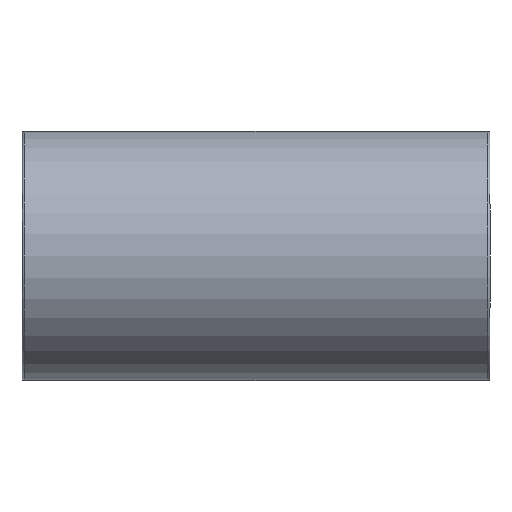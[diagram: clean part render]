
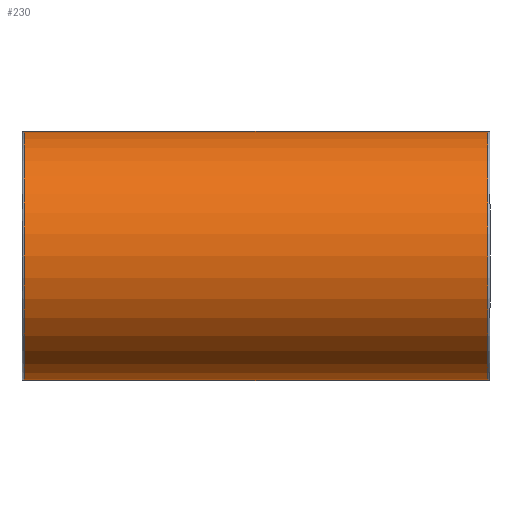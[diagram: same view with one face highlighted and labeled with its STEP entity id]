
A CAD part, front view. The second image highlights one B-rep face of the part: STEP entity #230.
In plain terms, the highlighted cylindrical face has radius 45 mm (diameter 90 mm), a full revolution.
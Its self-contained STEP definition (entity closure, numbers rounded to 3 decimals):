
#15=ELLIPSE('',#253,63.64,45.);
#16=ELLIPSE('',#254,63.64,45.);
#21=CYLINDRICAL_SURFACE('',#259,45.);
#38=FACE_BOUND('',#85,.T.);
#39=FACE_BOUND('',#86,.T.);
#59=FACE_OUTER_BOUND('',#84,.T.);
#84=EDGE_LOOP('',(#187));
#85=EDGE_LOOP('',(#188,#189));
#86=EDGE_LOOP('',(#190));
#118=CIRCLE('',#260,45.);
#119=CIRCLE('',#261,45.);
#134=VERTEX_POINT('',#383);
#135=VERTEX_POINT('',#384);
#138=VERTEX_POINT('',#394);
#139=VERTEX_POINT('',#396);
#156=EDGE_CURVE('',#134,#135,#15,.T.);
#157=EDGE_CURVE('',#135,#134,#16,.T.);
#160=EDGE_CURVE('',#138,#138,#118,.T.);
#161=EDGE_CURVE('',#139,#139,#119,.T.);
#187=ORIENTED_EDGE('',*,*,#160,.F.);
#188=ORIENTED_EDGE('',*,*,#156,.T.);
#189=ORIENTED_EDGE('',*,*,#157,.T.);
#190=ORIENTED_EDGE('',*,*,#161,.F.);
#230=ADVANCED_FACE('',(#59,#38,#39),#21,.T.);
#253=AXIS2_PLACEMENT_3D('',#385,#304,#305);
#254=AXIS2_PLACEMENT_3D('',#386,#306,#307);
#259=AXIS2_PLACEMENT_3D('',#393,#316,#317);
#260=AXIS2_PLACEMENT_3D('',#395,#318,#319);
#261=AXIS2_PLACEMENT_3D('',#397,#320,#321);
#304=DIRECTION('center_axis',(0.707,-0.707,0.));
#305=DIRECTION('ref_axis',(-0.707,-0.707,0.));
#306=DIRECTION('center_axis',(-0.707,-0.707,0.));
#307=DIRECTION('ref_axis',(-0.707,0.707,0.));
#316=DIRECTION('center_axis',(1.,0.,0.));
#317=DIRECTION('ref_axis',(0.,1.,0.));
#318=DIRECTION('center_axis',(-1.,0.,0.));
#319=DIRECTION('ref_axis',(0.,-1.,0.));
#320=DIRECTION('center_axis',(1.,0.,0.));
#321=DIRECTION('ref_axis',(0.,-1.,0.));
#383=CARTESIAN_POINT('',(0.,0.,-45.));
#384=CARTESIAN_POINT('',(0.,0.,45.));
#385=CARTESIAN_POINT('Origin',(0.,0.,0.));
#386=CARTESIAN_POINT('Origin',(0.,0.,0.));
#393=CARTESIAN_POINT('Origin',(0.,0.,
0.));
#394=CARTESIAN_POINT('',(-83.75,45.,0.));
#395=CARTESIAN_POINT('Origin',(-83.75,0.,0.));
#396=CARTESIAN_POINT('',(83.75,45.,0.));
#397=CARTESIAN_POINT('Origin',(83.75,0.,0.));
